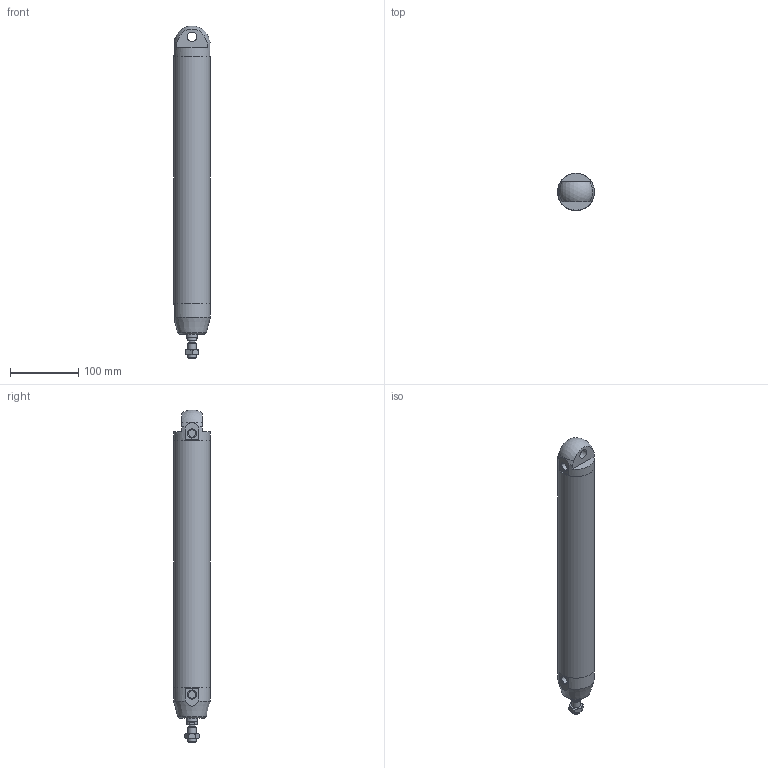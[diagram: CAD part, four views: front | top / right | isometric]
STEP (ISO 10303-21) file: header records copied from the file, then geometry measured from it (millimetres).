
FILE_DESCRIPTION(/* description */ (''),/* implementation_level */ '2;1');
FILE_NAME(/* name */ 'I:\Area Tecnica\Documenti\A-Manieri\_Inventor\12X\12X#A_###_####_#_#\12XAA_050_0320_#_#.stp',/* time_stamp */ '2015-04-22T12:05:43+02:00',/* author */ ('maniean1'),/* organization */ ('Pneumax S.p.A.'),/* preprocessor_version */ 'ST-DEVELOPER v15.2',/* originating_system */ 'Autodesk Inventor 2014',/* authorisation */ '');
FILE_SCHEMA (('AUTOMOTIVE_DESIGN { 1 0 10303 214 3 1 1 }'));
Length unit declared in the file: millimetre
Products named in the file (6): C1250_619-0320; 12X50_613; 12X50_605; S12X50_0320; 12X_50_11; 12XAA_050_0320_#_#
Bounding box: 54 x 54 x 486.83 mm (x, y, z)
Volume: 423039.5 mm3; surface area: 174318.8 mm2
Topology: 5 solids, 5 shells, 59 faces, 126 edges, 81 vertices
Faces by surface type: plane 31, cylinder 14, cone 12, torus 1, sphere 1
Full cylindrical faces by diameter (mm): 10.2 x1, 11.4 x2, 12 x2, 14 x2, 15.6 x1, 16 x1, 50 x2, 54 x3
Entity records: 1560 total; most frequent: CARTESIAN_POINT 288, DIRECTION 266, ORIENTED_EDGE 196, AXIS2_PLACEMENT_3D 120, EDGE_CURVE 98, EDGE_LOOP 94, VERTEX_POINT 76, ADVANCED_FACE 59
